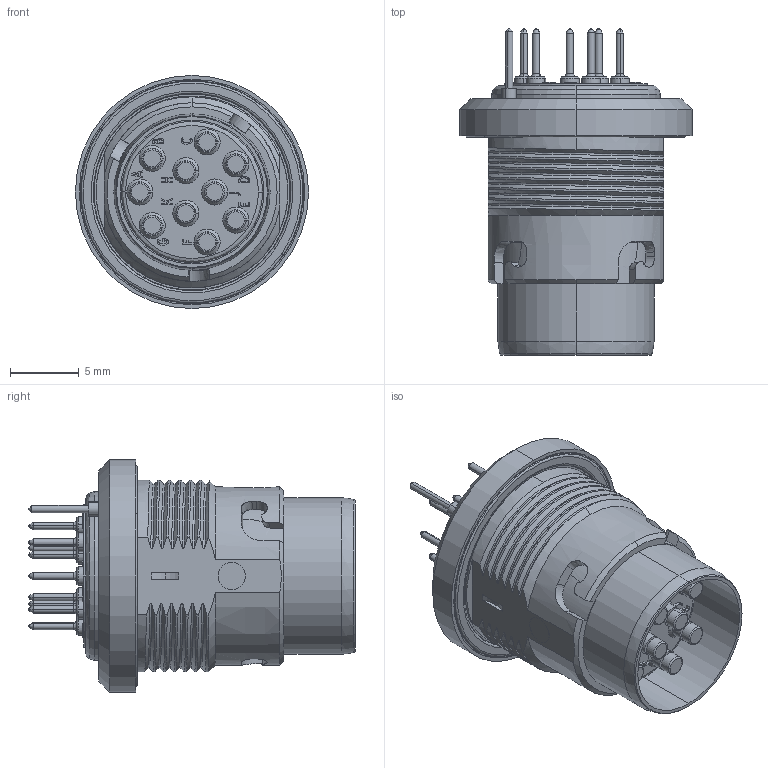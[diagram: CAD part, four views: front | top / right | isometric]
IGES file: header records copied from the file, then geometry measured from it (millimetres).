
Start section: SolidWorks IGES file using analytic representation for surfaces
Global section: file name: C:\Users\JGC\Desktop\PAM17 SNE1C1-1.IGS; native system: SolidWorks 2017; preprocessor: SolidWorks 2017; author: jgc; date: 190527.105709; units: millimetre
Bounding box: 17 x 23.8 x 17 mm (x, y, z)
Volume: 2402.4 mm3; surface area: 1722.5 mm2
Topology: 1 solids, 1 shells, 1061 faces, 2676 edges, 1724 vertices
Faces by surface type: plane 516, revolution 331, bspline 214
